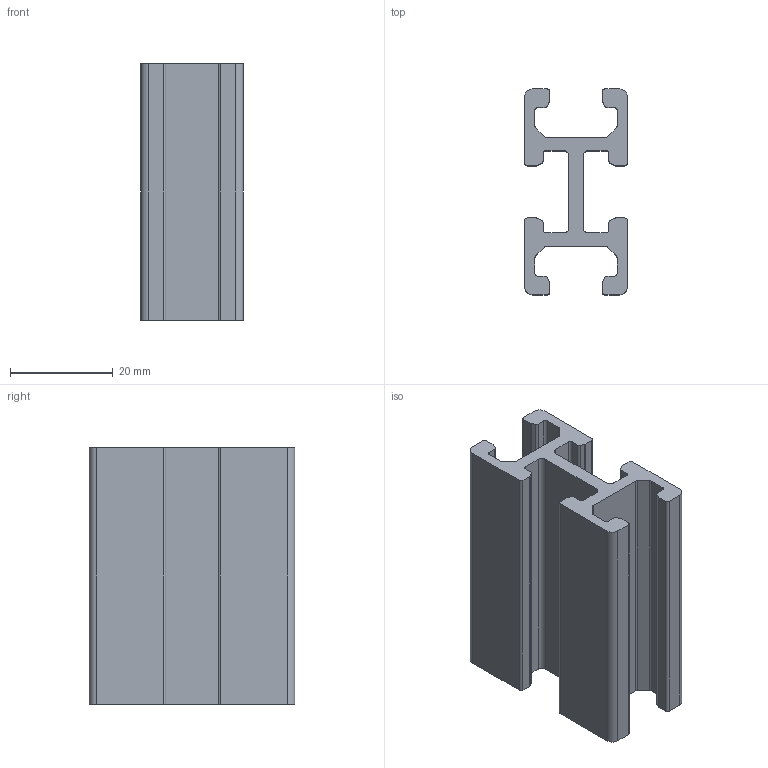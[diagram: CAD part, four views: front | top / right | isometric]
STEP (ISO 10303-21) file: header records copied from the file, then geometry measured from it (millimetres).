
FILE_DESCRIPTION(('STEP AP214'),'1');
FILE_NAME('F24H-.stp','2017-07-14T07:42:34',(' '),(' '),'Spatial InterOp 3D',' ',' ');
FILE_SCHEMA(('automotive_design'));
Length unit declared in the file: millimetre
Products named in the file (1): F24H-
Bounding box: 20 x 40 x 50 mm (x, y, z)
Volume: 15573.6 mm3; surface area: 11702.9 mm2
Topology: 1 solids, 1 shells, 98 faces, 288 edges, 192 vertices
Faces by surface type: plane 50, cylinder 48
Entity records: 4088 total; most frequent: DIRECTION 582, CARTESIAN_POINT 579, ORIENTED_EDGE 576, EDGE_CURVE 288, AXIS2_PLACEMENT_3D 195, VERTEX_POINT 192, LINE 192, VECTOR 192
